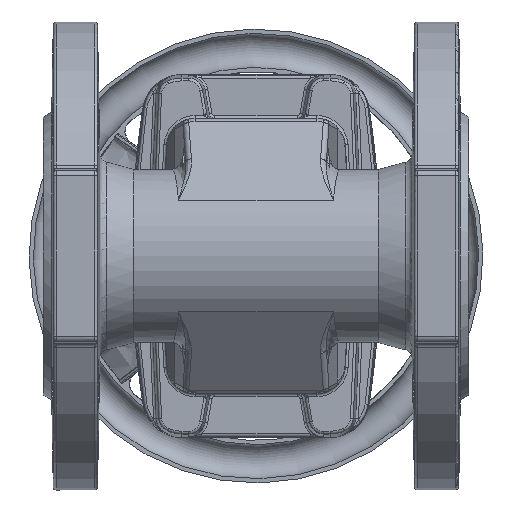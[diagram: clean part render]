
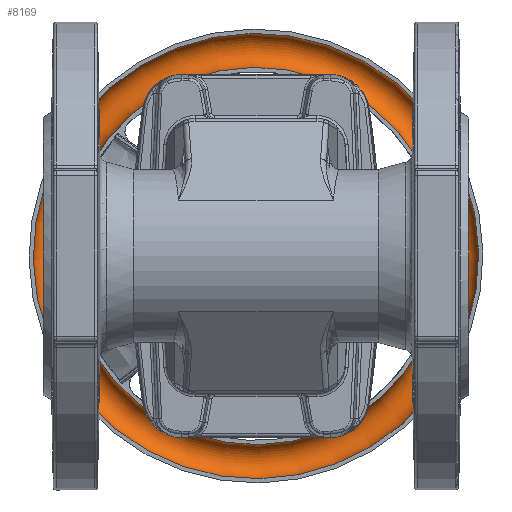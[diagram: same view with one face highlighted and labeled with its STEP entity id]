
A CAD part, front view. The second image highlights one B-rep face of the part: STEP entity #8169.
In plain terms, the highlighted toroidal (fillet/blend) face has major radius 72.5 mm and minor radius 6 mm.
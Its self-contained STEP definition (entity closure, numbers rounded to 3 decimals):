
#8090 = ORIENTED_EDGE ( 'NONE', *, *, #8146, .T. ) ;
#8107 = EDGE_LOOP ( 'NONE', ( #8090 ) ) ;
#8141 = EDGE_LOOP ( 'NONE', ( #8182 ) ) ;
#8146 = EDGE_CURVE ( 'NONE', #48508, #48508, #39265, .T. ) ;
#8168 = EDGE_CURVE ( 'NONE', #48506, #48506, #39356, .T. ) ;
#8169 = ADVANCED_FACE ( 'NONE', ( #39353, #39354 ), #39340, .F. ) ;
#8182 = ORIENTED_EDGE ( 'NONE', *, *, #8168, .F. ) ;
#39238 = DIRECTION ( 'NONE',  ( 0.018, 0., -1. ) ) ;
#39239 = DIRECTION ( 'NONE',  ( 0., -1., 0. ) ) ;
#39240 = CARTESIAN_POINT ( 'NONE',  ( 0., 235.29, 0. ) ) ;
#39241 = AXIS2_PLACEMENT_3D ( 'NONE', #39240, #39239, #39238 ) ;
#39265 = CIRCLE ( 'NONE', #39241, 78.5 ) ;
#39316 = AXIS2_PLACEMENT_3D ( 'NONE', #39344, #39349, #39348 ) ;
#39317 = DIRECTION ( 'NONE',  ( 0.018, 0., -1. ) ) ;
#39318 = DIRECTION ( 'NONE',  ( 0., -1., 0. ) ) ;
#39319 = CARTESIAN_POINT ( 'NONE',  ( 0., 235.29, 0. ) ) ;
#39340 = TOROIDAL_SURFACE ( 'NONE', #39347, 72.5, 6. ) ;
#39344 = CARTESIAN_POINT ( 'NONE',  ( 0., 235.29, 0. ) ) ;
#39347 = AXIS2_PLACEMENT_3D ( 'NONE', #39319, #39318, #39317 ) ;
#39348 = DIRECTION ( 'NONE',  ( 0.018, 0., -1. ) ) ;
#39349 = DIRECTION ( 'NONE',  ( 0., -1., 0. ) ) ;
#39353 = FACE_OUTER_BOUND ( 'NONE', #8141, .T. ) ;
#39354 = FACE_OUTER_BOUND ( 'NONE', #8107, .T. ) ;
#39356 = CIRCLE ( 'NONE', #39316, 66.5 ) ;
#48503 = CARTESIAN_POINT ( 'NONE',  ( 1.179, 235.29, -66.49 ) ) ;
#48505 = CARTESIAN_POINT ( 'NONE',  ( 1.392, 235.29, -78.488 ) ) ;
#48506 = VERTEX_POINT ( 'NONE', #48503 ) ;
#48508 = VERTEX_POINT ( 'NONE', #48505 ) ;
